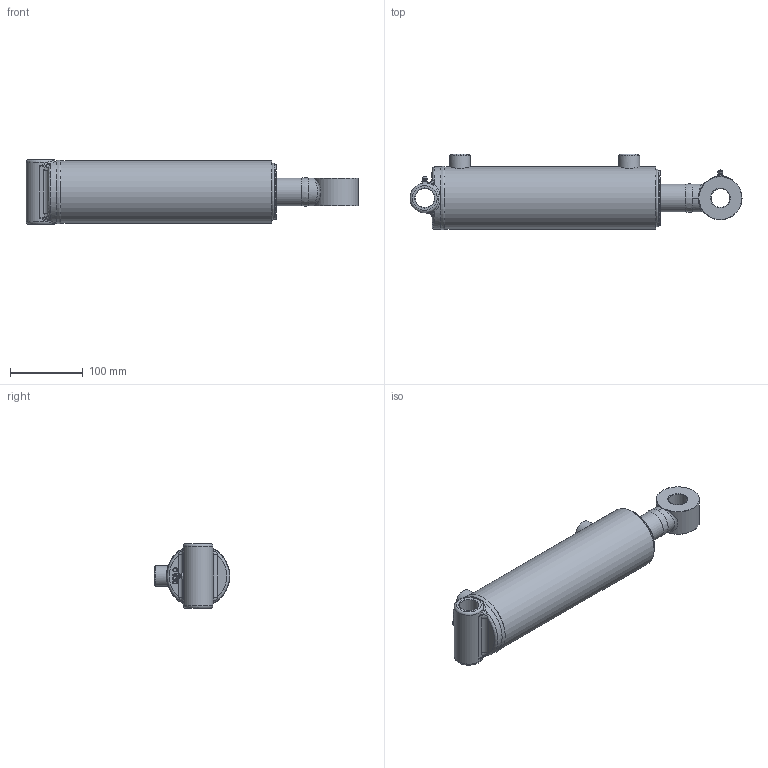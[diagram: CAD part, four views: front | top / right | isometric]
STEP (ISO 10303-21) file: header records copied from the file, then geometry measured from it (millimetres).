
FILE_DESCRIPTION(/* description */ ('Ø3.00 X 8.00 DA'),/* implementation_level */ '2;1');
FILE_NAME(/* name */ 'T:\Aces\Jobs\c6d4574805d44e12b03d80d2dbecfcec\result.stp',/* time_stamp */ '2023-05-04T19:10:19+00:00',/* author */ ('AJC'),/* organization */ ('PRINCE MANUFACTURING'),/* preprocessor_version */ 'ST-DEVELOPER v18.1',/* originating_system */ 'Autodesk Inventor 2022',/* authorisation */ '');
FILE_SCHEMA (('AUTOMOTIVE_DESIGN { 1 0 10303 214 3 1 1 }'));
Length unit declared in the file: inch
Products named in the file (21): PC3008015A00-160XTXS; 0615-XTSF000-11507; 0515-T-11507; 161500198; 200015603; 06Weld1_C360; 0715-P-100; 220000210; 0815-G-150; 230025104; 230025004; 240000022; 240061334; 240000334; 0208A-HAW2-13813XS; 0108A-HAW2-13813; 210400772; 02Weld_C360; 240020059; 250014150; 270010020
Assembly tree (22 placements, depth 3):
  PC3008015A00-160XTXS
    0615-XTSF000-11507
      0515-T-11507
      161500198
      200015603  x2
      06Weld1_C360
    0715-P-100
    220000210
    0815-G-150
    230025104
    230025004
    240000022
    240061334
    240000334
    0208A-HAW2-13813XS
      0108A-HAW2-13813
      210400772
      02Weld_C360
    240020059
    250014150
    270010020  x2
Bounding box: 456.44 x 104.04 x 88.9 mm (x, y, z)
Volume: 1220229.5 mm3; surface area: 347176.2 mm2
Topology: 26 solids, 26 shells, 564 faces, 1375 edges, 870 vertices
Faces by surface type: bspline 162, plane 135, torus 95, cylinder 84, cone 84, sphere 4
Full cylindrical faces by diameter (mm): 2.143 x4, 3.175 x1, 5.359 x2, 6.35 x2, 9.525 x2, 12.649 x1, 12.7 x1, 12.725 x1, 17.323 x2, 23.444 x1, 25.349 x1, 25.476 x1, 25.781 x1, 26.162 x1, 27.965 x1, 28.575 x2, 38.1 x1, 38.176 x2, 39.294 x2, 40.132 x1, 40.488 x1, 45.263 x1, 46.457 x1, 47.65 x1, 49.276 x2, 50.8 x2, 61.976 x1, 63.5 x2, 66.777 x2, 67.513 x2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
Entity records: 35075 total; most frequent: CARTESIAN_POINT 22422, ORIENTED_EDGE 2512, DIRECTION 2178, EDGE_CURVE 1256, AXIS2_PLACEMENT_3D 915, VERTEX_POINT 809, EDGE_LOOP 595, FACE_OUTER_BOUND 520
